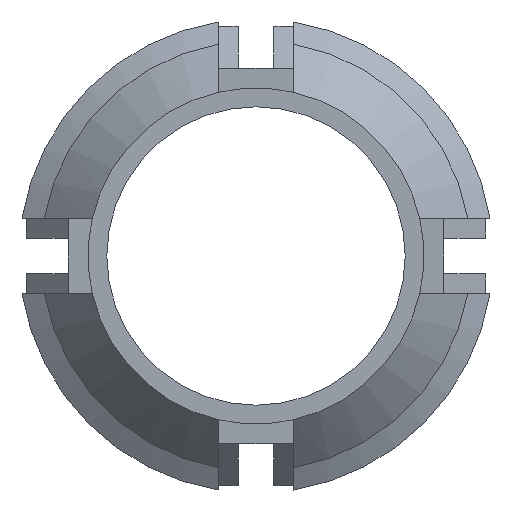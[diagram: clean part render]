
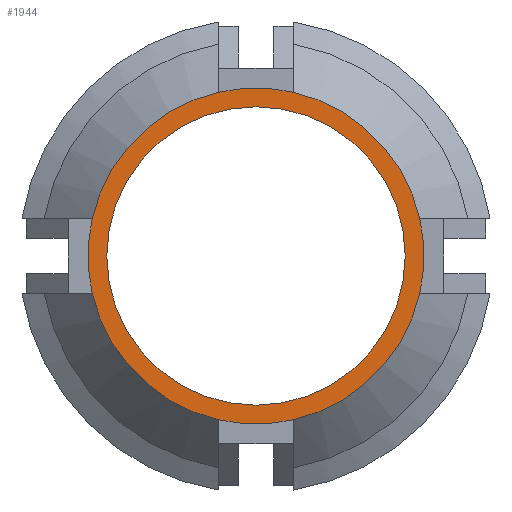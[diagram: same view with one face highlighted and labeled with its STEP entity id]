
A CAD part, front view. The second image highlights one B-rep face of the part: STEP entity #1944.
In plain terms, the highlighted planar face has unit normal (0, -1, 0).
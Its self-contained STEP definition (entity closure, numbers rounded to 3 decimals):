
#12 = CARTESIAN_POINT ( 'NONE',  ( -5.488, -12.7, -1.25 ) ) ;
#88 = CARTESIAN_POINT ( 'NONE',  ( 0., -12.7, 0. ) ) ;
#135 = CARTESIAN_POINT ( 'NONE',  ( 1.25, -12.7, 5.488 ) ) ;
#147 = DIRECTION ( 'NONE',  ( 0., 0., 1. ) ) ;
#226 = AXIS2_PLACEMENT_3D ( 'NONE', #88, #2409, #1771 ) ;
#258 = ORIENTED_EDGE ( 'NONE', *, *, #2370, .F. ) ;
#277 = EDGE_CURVE ( 'NONE', #2526, #1820, #3604, .T. ) ;
#316 = AXIS2_PLACEMENT_3D ( 'NONE', #2048, #2416, #1436 ) ;
#353 = VERTEX_POINT ( 'NONE', #2700 ) ;
#378 = ORIENTED_EDGE ( 'NONE', *, *, #2893, .T. ) ;
#388 = DIRECTION ( 'NONE',  ( 0., 0., 1. ) ) ;
#414 = ORIENTED_EDGE ( 'NONE', *, *, #3799, .T. ) ;
#423 = CARTESIAN_POINT ( 'NONE',  ( 0., -12.7, 0. ) ) ;
#486 = EDGE_CURVE ( 'NONE', #2077, #2620, #1514, .T. ) ;
#569 = CIRCLE ( 'NONE', #3891, 5. ) ;
#578 = VERTEX_POINT ( 'NONE', #3513 ) ;
#580 = AXIS2_PLACEMENT_3D ( 'NONE', #2850, #2229, #584 ) ;
#584 = DIRECTION ( 'NONE',  ( 0., 0., 1. ) ) ;
#660 = ORIENTED_EDGE ( 'NONE', *, *, #765, .T. ) ;
#664 = EDGE_CURVE ( 'NONE', #2585, #578, #569, .T. ) ;
#765 = EDGE_CURVE ( 'NONE', #946, #353, #2192, .T. ) ;
#812 = EDGE_LOOP ( 'NONE', ( #258, #2510 ) ) ;
#946 = VERTEX_POINT ( 'NONE', #135 ) ;
#1005 = DIRECTION ( 'NONE',  ( 0., -1., 0. ) ) ;
#1007 = CARTESIAN_POINT ( 'NONE',  ( 0., -12.7, 0. ) ) ;
#1009 = VERTEX_POINT ( 'NONE', #1608 ) ;
#1133 = DIRECTION ( 'NONE',  ( 0., -1., 0. ) ) ;
#1265 = DIRECTION ( 'NONE',  ( 0., -1., 0. ) ) ;
#1306 = CARTESIAN_POINT ( 'NONE',  ( 1.25, -12.7, -5.488 ) ) ;
#1330 = CIRCLE ( 'NONE', #1660, 5.628 ) ;
#1415 = CARTESIAN_POINT ( 'NONE',  ( 0., -12.7, 0. ) ) ;
#1436 = DIRECTION ( 'NONE',  ( 0., 0., 1. ) ) ;
#1478 = DIRECTION ( 'NONE',  ( 0., 0., 1. ) ) ;
#1514 = CIRCLE ( 'NONE', #2119, 5.628 ) ;
#1538 = EDGE_CURVE ( 'NONE', #353, #2077, #2325, .T. ) ;
#1599 = DIRECTION ( 'NONE',  ( 1., 0., 0. ) ) ;
#1608 = CARTESIAN_POINT ( 'NONE',  ( 5.488, -12.7, -1.25 ) ) ;
#1660 = AXIS2_PLACEMENT_3D ( 'NONE', #1007, #2259, #2236 ) ;
#1694 = CARTESIAN_POINT ( 'NONE',  ( 5.488, -12.7, 1.25 ) ) ;
#1771 = DIRECTION ( 'NONE',  ( -1., 0., 0. ) ) ;
#1789 = EDGE_LOOP ( 'NONE', ( #3545, #414, #3887, #3120, #3515, #378, #660, #3200 ) ) ;
#1802 = AXIS2_PLACEMENT_3D ( 'NONE', #1415, #3390, #3691 ) ;
#1820 = VERTEX_POINT ( 'NONE', #1306 ) ;
#1866 = AXIS2_PLACEMENT_3D ( 'NONE', #2612, #3945, #388 ) ;
#1915 = CARTESIAN_POINT ( 'NONE',  ( 0., -12.7, 0. ) ) ;
#1944 = ADVANCED_FACE ( 'NONE', ( #3603, #3006 ), #3284, .F. ) ;
#2034 = DIRECTION ( 'NONE',  ( 0., 0., 1. ) ) ;
#2048 = CARTESIAN_POINT ( 'NONE',  ( 0., -12.7, 0. ) ) ;
#2077 = VERTEX_POINT ( 'NONE', #2444 ) ;
#2119 = AXIS2_PLACEMENT_3D ( 'NONE', #423, #1133, #147 ) ;
#2143 = CARTESIAN_POINT ( 'NONE',  ( -1.25, -12.7, -5.488 ) ) ;
#2192 = CIRCLE ( 'NONE', #2316, 5.628 ) ;
#2210 = CARTESIAN_POINT ( 'NONE',  ( 0., -12.7, 0. ) ) ;
#2229 = DIRECTION ( 'NONE',  ( 0., -1., 0. ) ) ;
#2236 = DIRECTION ( 'NONE',  ( 0., 0., -1. ) ) ;
#2259 = DIRECTION ( 'NONE',  ( 0., -1., 0. ) ) ;
#2267 = CIRCLE ( 'NONE', #580, 5.628 ) ;
#2275 = EDGE_CURVE ( 'NONE', #1820, #1009, #3427, .T. ) ;
#2316 = AXIS2_PLACEMENT_3D ( 'NONE', #1915, #1265, #1599 ) ;
#2325 = CIRCLE ( 'NONE', #2598, 5.628 ) ;
#2370 = EDGE_CURVE ( 'NONE', #578, #2585, #4177, .T. ) ;
#2409 = DIRECTION ( 'NONE',  ( 0., -1., 0. ) ) ;
#2416 = DIRECTION ( 'NONE',  ( 0., -1., 0. ) ) ;
#2444 = CARTESIAN_POINT ( 'NONE',  ( -5.488, -12.7, 1.25 ) ) ;
#2492 = DIRECTION ( 'NONE',  ( 0., 0., 1. ) ) ;
#2510 = ORIENTED_EDGE ( 'NONE', *, *, #664, .F. ) ;
#2526 = VERTEX_POINT ( 'NONE', #2143 ) ;
#2585 = VERTEX_POINT ( 'NONE', #3619 ) ;
#2598 = AXIS2_PLACEMENT_3D ( 'NONE', #3195, #1005, #2034 ) ;
#2612 = CARTESIAN_POINT ( 'NONE',  ( 0., -12.7, 0. ) ) ;
#2620 = VERTEX_POINT ( 'NONE', #12 ) ;
#2700 = CARTESIAN_POINT ( 'NONE',  ( -1.25, -12.7, 5.488 ) ) ;
#2850 = CARTESIAN_POINT ( 'NONE',  ( 0., -12.7, 0. ) ) ;
#2893 = EDGE_CURVE ( 'NONE', #3587, #946, #3491, .T. ) ;
#3006 = FACE_OUTER_BOUND ( 'NONE', #1789, .T. ) ;
#3022 = EDGE_CURVE ( 'NONE', #1009, #3587, #1330, .T. ) ;
#3108 = DIRECTION ( 'NONE',  ( 0., -1., 0. ) ) ;
#3120 = ORIENTED_EDGE ( 'NONE', *, *, #2275, .T. ) ;
#3157 = AXIS2_PLACEMENT_3D ( 'NONE', #3405, #3108, #1478 ) ;
#3195 = CARTESIAN_POINT ( 'NONE',  ( 0., -12.7, 0. ) ) ;
#3200 = ORIENTED_EDGE ( 'NONE', *, *, #1538, .T. ) ;
#3284 = PLANE ( 'NONE',  #1866 ) ;
#3390 = DIRECTION ( 'NONE',  ( 0., -1., 0. ) ) ;
#3405 = CARTESIAN_POINT ( 'NONE',  ( 0., -12.7, 0. ) ) ;
#3427 = CIRCLE ( 'NONE', #1802, 5.628 ) ;
#3491 = CIRCLE ( 'NONE', #3157, 5.628 ) ;
#3513 = CARTESIAN_POINT ( 'NONE',  ( 0., -12.7, 5. ) ) ;
#3515 = ORIENTED_EDGE ( 'NONE', *, *, #3022, .T. ) ;
#3545 = ORIENTED_EDGE ( 'NONE', *, *, #486, .T. ) ;
#3587 = VERTEX_POINT ( 'NONE', #1694 ) ;
#3603 = FACE_BOUND ( 'NONE', #812, .T. ) ;
#3604 = CIRCLE ( 'NONE', #226, 5.628 ) ;
#3619 = CARTESIAN_POINT ( 'NONE',  ( 0., -12.7, -5. ) ) ;
#3691 = DIRECTION ( 'NONE',  ( 0., 0., 1. ) ) ;
#3799 = EDGE_CURVE ( 'NONE', #2620, #2526, #2267, .T. ) ;
#3887 = ORIENTED_EDGE ( 'NONE', *, *, #277, .T. ) ;
#3891 = AXIS2_PLACEMENT_3D ( 'NONE', #2210, #4080, #2492 ) ;
#3945 = DIRECTION ( 'NONE',  ( 0., 1., 0. ) ) ;
#4080 = DIRECTION ( 'NONE',  ( 0., -1., 0. ) ) ;
#4177 = CIRCLE ( 'NONE', #316, 5. ) ;
